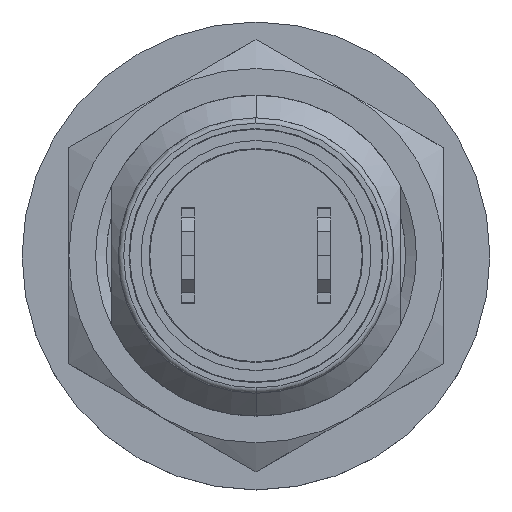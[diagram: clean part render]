
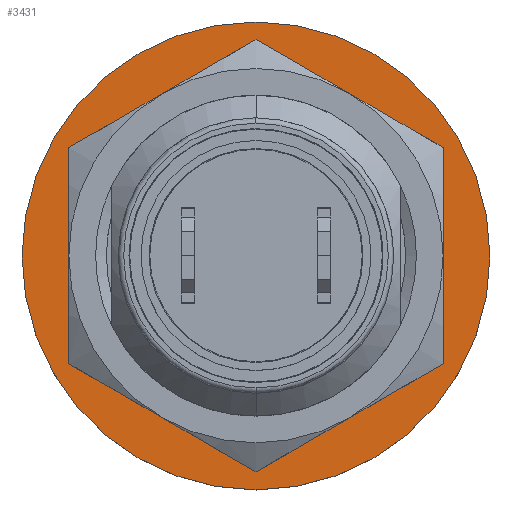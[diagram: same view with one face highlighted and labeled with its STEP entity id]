
A CAD part, top view. The second image highlights one B-rep face of the part: STEP entity #3431.
In plain terms, the highlighted planar face has unit normal (0, 0, 1).
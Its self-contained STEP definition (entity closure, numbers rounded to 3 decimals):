
#691=CARTESIAN_POINT('',(0.,0.,0.));
#692=DIRECTION('',(0.,0.,-1.));
#693=DIRECTION('',(0.,1.,0.));
#694=AXIS2_PLACEMENT_3D('',#691,#692,#693);
#696=CARTESIAN_POINT('',(0.,0.,0.));
#697=DIRECTION('',(0.,0.,-1.));
#698=DIRECTION('',(0.,-1.,0.));
#699=AXIS2_PLACEMENT_3D('',#696,#697,#698);
#701=CARTESIAN_POINT('',(0.,0.,0.));
#702=DIRECTION('',(0.,0.,1.));
#703=DIRECTION('',(0.889,0.458,0.));
#704=AXIS2_PLACEMENT_3D('',#701,#702,#703);
#706=CARTESIAN_POINT('',(0.,0.,0.));
#707=DIRECTION('',(0.,0.,1.));
#708=DIRECTION('',(0.,1.,0.));
#709=AXIS2_PLACEMENT_3D('',#706,#707,#708);
#711=CARTESIAN_POINT('',(0.,0.,0.));
#712=DIRECTION('',(0.,0.,1.));
#713=DIRECTION('',(0.,-1.,0.));
#714=AXIS2_PLACEMENT_3D('',#711,#712,#713);
#716=DIRECTION('',(0.,1.,0.));
#717=VECTOR('',#716,6.185);
#718=CARTESIAN_POINT('',(6.,-3.092,0.));
#719=LINE('',#718,#717);
#3243=CARTESIAN_POINT('',(6.,3.092,0.));
#3244=VERTEX_POINT('',#3243);
#3245=CARTESIAN_POINT('',(6.,-3.092,0.));
#3246=VERTEX_POINT('',#3245);
#3247=CARTESIAN_POINT('',(0.,-6.75,0.));
#3248=VERTEX_POINT('',#3247);
#3249=CARTESIAN_POINT('',(0.,6.75,0.));
#3250=VERTEX_POINT('',#3249);
#3255=CARTESIAN_POINT('',(0.,8.75,0.));
#3256=CARTESIAN_POINT('',(0.,-8.75,0.));
#3257=VERTEX_POINT('',#3255);
#3258=VERTEX_POINT('',#3256);
#3410=CARTESIAN_POINT('',(0.,0.,0.));
#3411=DIRECTION('',(0.,0.,1.));
#3412=DIRECTION('',(0.,1.,0.));
#3413=AXIS2_PLACEMENT_3D('',#3410,#3411,#3412);
#3414=PLANE('',#3413);
#3416=ORIENTED_EDGE('',*,*,#3415,.T.);
#3418=ORIENTED_EDGE('',*,*,#3417,.T.);
#3419=EDGE_LOOP('',(#3416,#3418));
#3420=FACE_OUTER_BOUND('',#3419,.F.);
#3422=ORIENTED_EDGE('',*,*,#3421,.T.);
#3424=ORIENTED_EDGE('',*,*,#3423,.T.);
#3426=ORIENTED_EDGE('',*,*,#3425,.T.);
#3428=ORIENTED_EDGE('',*,*,#3427,.T.);
#3429=EDGE_LOOP('',(#3422,#3424,#3426,#3428));
#3430=FACE_BOUND('',#3429,.F.);
#3431=ADVANCED_FACE('',(#3420,#3430),#3414,.T.);
#695=CIRCLE('',#694,8.75);
#700=CIRCLE('',#699,8.75);
#705=CIRCLE('',#704,6.75);
#710=CIRCLE('',#709,6.75);
#715=CIRCLE('',#714,6.75);
#3415=EDGE_CURVE('',#3257,#3258,#695,.T.);
#3417=EDGE_CURVE('',#3258,#3257,#700,.T.);
#3421=EDGE_CURVE('',#3244,#3250,#705,.T.);
#3423=EDGE_CURVE('',#3250,#3248,#710,.T.);
#3425=EDGE_CURVE('',#3248,#3246,#715,.T.);
#3427=EDGE_CURVE('',#3246,#3244,#719,.T.);
